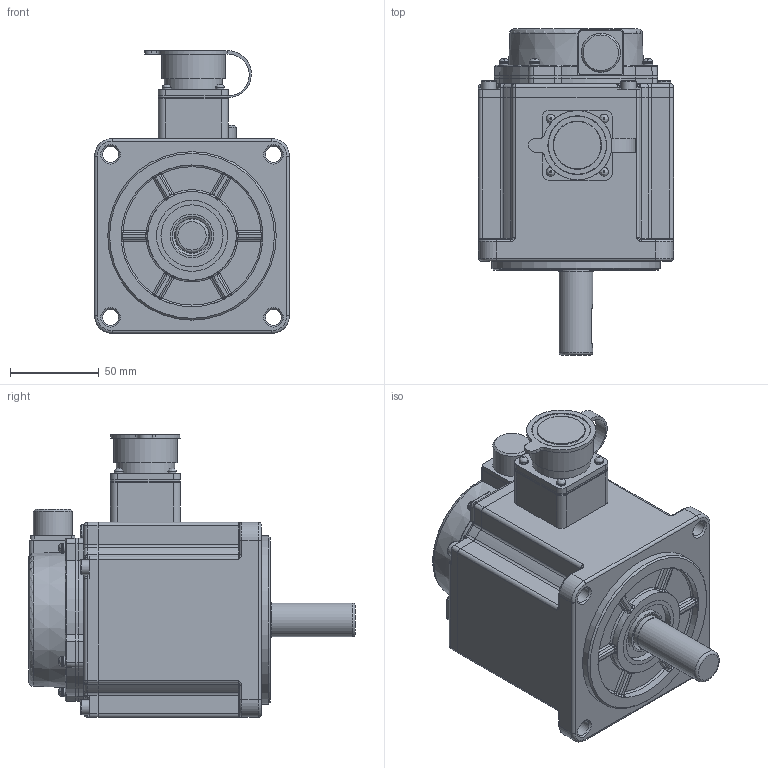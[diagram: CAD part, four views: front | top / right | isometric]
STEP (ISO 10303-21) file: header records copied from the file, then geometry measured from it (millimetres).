
FILE_DESCRIPTION(/* description */ (''),/* implementation_level */ '2;1');
FILE_NAME(/* name */ '磁编4N.stp',/* time_stamp */ '2024-04-19T09:36:26+08:00',/* author */ (''),/* organization */ (''),/* preprocessor_version */ 'ST-DEVELOPER v18.1',/* originating_system */ 'SIEMENS PLM Software NX 2000',/* authorisation */ '');
FILE_SCHEMA (('AUTOMOTIVE_DESIGN { 1 0 10303 214 3 1 1 1 }'));
Length unit declared in the file: millimetre
Products named in the file (1): 92504378DBD25y0m
Bounding box: 110 x 183.99 x 159.5 mm (x, y, z)
Volume: 1279415.2 mm3; surface area: 177192.4 mm2
Topology: 25 solids, 27 shells, 1139 faces, 2687 edges, 1596 vertices
Faces by surface type: cylinder 406, plane 394, torus 104, bspline 93, cone 74, sphere 68
Full cylindrical faces by diameter (mm): 2 x4, 2.5 x10, 4.1 x8, 4.2 x3, 4.826 x4, 5 x6, 5.5 x3, 8.5 x4, 9 x4, 19 x1, 19.6 x1, 20 x1, 22 x1, 22.288 x1, 24.616 x1, 27 x2, 30 x1, 33 x3, 35 x1, 36 x1, 40 x2, 95 x1, 100 x1, 104 x1
Entity records: 34630 total; most frequent: CARTESIAN_POINT 9298, DIRECTION 5508, ORIENTED_EDGE 4920, EDGE_CURVE 2460, AXIS2_PLACEMENT_3D 2256, VERTEX_POINT 1549, EDGE_LOOP 1359, CIRCLE 1185
